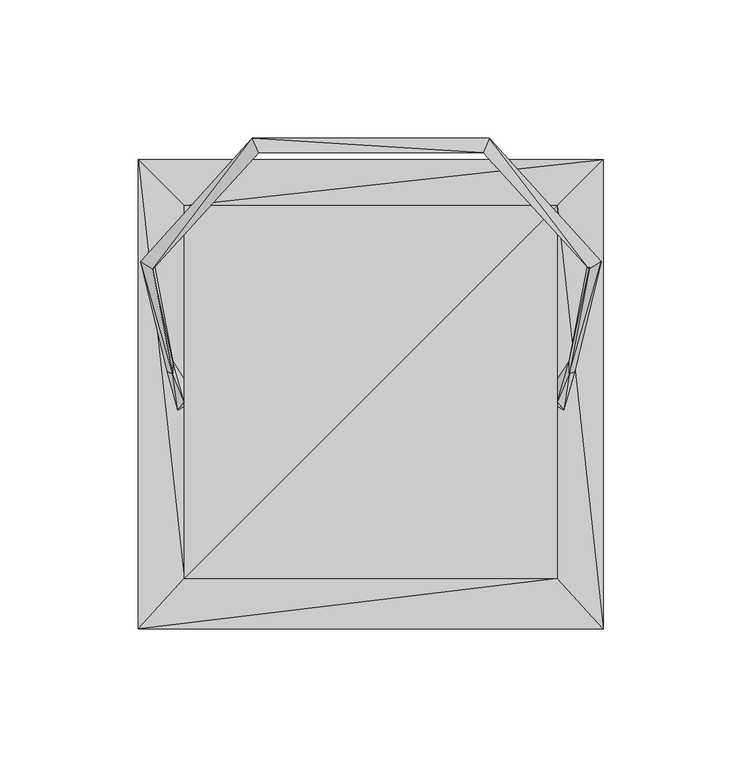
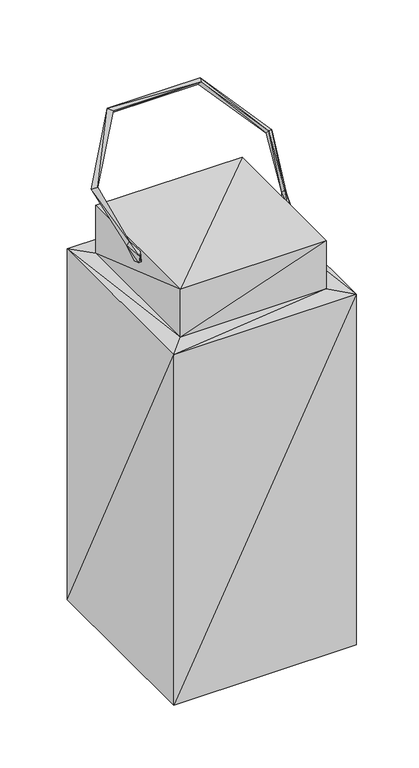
"""IFC4 building model written with IfcOpenShell, lengths in millimetres: geographic element geometry, Enscape AssetDefinition - Candle Lantern : Enscape AssetDefinition - Candle Lantern."""

from ifc_helpers import new_model, si_unit, origin, place, context, project, spatial, faceted_brep, source, transform, mapped, element, save


def geographic_element_b8c225c3(model_context):
    return source(origin(), model_context, "Body", "Brep", [
        faceted_brep([(65.8184588, 3.9473763, 377.5207698), (70.0483769, 10.5347754, 386.8232965), (68.1816638, 1.1448535, 375.1436472), (70.0483769, 5.9667937, 392.2086954), (77.2792473, 43.7461436, 424.2515266), (77.2792473, 48.3141281, 418.8661277), (72.0408484, 6.7164195, 388.214767), (65.8184588, -4.2862599, 387.2283101), (68.1816638, -5.7740794, 377.6212037), (65.8184588, -5.7740794, 377.6212037), (68.1816638, -7.0887827, 384.8520517), (81.695348, 46.6164425, 422.0565557), (41.262906, 91.1252797, 459.8064721), (38.9862657, 90.4630274, 454.6146393), (-44.3585813, 91.1252797, 459.8064721), (38.9862657, 85.8950391, 460.0000083), (-42.0811214, 90.4630274, 454.6146393), (-42.0811214, 85.8950391, 460.0000083), (-80.3749263, 43.7461436, 424.2515266), (-84.7910196, 46.6164425, 422.0565557), (-80.3749263, 48.3141281, 418.8661277), (-73.1440559, 5.9667937, 392.2086954), (-73.1440559, 10.5347754, 386.8232965), (-75.13652, 6.7164195, 388.214767), (-71.2773353, 1.1448535, 375.1436472), (-68.9141378, 3.9473763, 377.5207698), (-68.9141378, -4.2862599, 387.2283101), (-71.2773353, -7.0887827, 384.8520517), (-71.2773353, -5.7740794, 377.6212037), (-68.9141378, -5.7740794, 377.6212037)], [[[0, 1, 2]], [[3, 4, 1]], [[1, 5, 6]], [[3, 1, 7]], [[2, 1, 6]], [[1, 4, 5]], [[7, 1, 0]], [[6, 8, 2]], [[8, 0, 2]], [[9, 0, 8]], [[0, 9, 7]], [[7, 9, 10]], [[10, 3, 7]], [[10, 9, 8]], [[6, 10, 8]], [[6, 11, 3]], [[6, 3, 10]], [[6, 5, 11]], [[3, 11, 4]], [[11, 12, 4]], [[5, 13, 11]], [[11, 13, 12]], [[12, 14, 15]], [[4, 12, 15]], [[13, 14, 12]], [[13, 16, 14]], [[5, 15, 13]], [[15, 16, 13]], [[4, 15, 5]], [[15, 17, 16]], [[15, 14, 17]], [[17, 14, 18]], [[14, 16, 19]], [[18, 14, 19]], [[16, 17, 20]], [[19, 16, 20]], [[20, 17, 18]], [[18, 19, 21]], [[20, 18, 22]], [[22, 18, 21]], [[19, 20, 23]], [[21, 19, 23]], [[23, 20, 22]], [[24, 22, 25]], [[25, 22, 26]], [[23, 22, 24]], [[26, 22, 21]], [[26, 21, 27]], [[21, 23, 27]], [[28, 27, 23]], [[24, 28, 23]], [[24, 25, 28]], [[26, 29, 25]], [[28, 25, 29]], [[27, 29, 26]], [[28, 29, 27]]]),
        faceted_brep([(82.4931413, -86.3392651, 0.0), (-85.5880082, -86.3392651, 0.0), (82.4931413, 83.437942, 0.0), (-85.5880082, -86.3392651, 341.9143558), (82.4931413, -86.3392651, 341.9143558), (-85.5880082, 83.437942, 0.0), (82.4931413, 83.437942, 341.9143558), (-85.5880082, 83.437942, 341.9143558), (65.82091, -67.9709837, 341.9143558), (65.82091, 66.7657033, 341.9143558), (-68.9157695, -67.9709837, 341.9143558), (-68.9157695, 66.7657033, 341.9143558), (65.82091, 66.7657033, 388.5879219), (-68.9157695, 66.7657033, 388.5879219), (65.82091, -67.9709837, 388.5879219), (-68.9157695, -67.9709837, 388.5879219)], [[[0, 1, 2]], [[3, 1, 4]], [[2, 1, 5]], [[4, 1, 0]], [[3, 5, 1]], [[6, 2, 7]], [[6, 0, 2]], [[7, 2, 5]], [[4, 0, 6]], [[8, 4, 9]], [[8, 3, 4]], [[9, 4, 6]], [[7, 5, 3]], [[10, 3, 8]], [[10, 7, 3]], [[11, 7, 10]], [[11, 6, 7]], [[9, 6, 11]], [[12, 9, 13]], [[12, 8, 9]], [[13, 9, 11]], [[14, 8, 12]], [[14, 10, 8]], [[15, 10, 14]], [[15, 11, 10]], [[13, 11, 15]], [[13, 15, 12]], [[12, 15, 14]]]),
    ])


if __name__ == "__main__":
    model = new_model("IFC4")
    model_context = context("Model", 3, world=origin())
    ifc_project = project(units=[si_unit("LENGTHUNIT", "METRE", prefix="MILLI")], contexts=[model_context])
    site = spatial("IfcSite", under=ifc_project)
    building = spatial("IfcBuilding", under=site)
    placement = place(None, origin())
    geographic_element_shape = geographic_element_b8c225c3(model_context)
    element("IfcGeographicElement", 1, ObjectType="Enscape AssetDefinition - Candle Lantern : Enscape AssetDefinition - Candle Lantern", at=placement, inside=building, context=model_context, shape_type="MappedRepresentation", body=[
        mapped(geographic_element_shape, transform((0.0, 0.0, 0.0), x_axis=(1.0, 0.0, 0.0), y_axis=(0.0, 1.0, 0.0), z_axis=(0.0, 0.0, 1.0))),
    ])
    save(model, "model.ifc")
